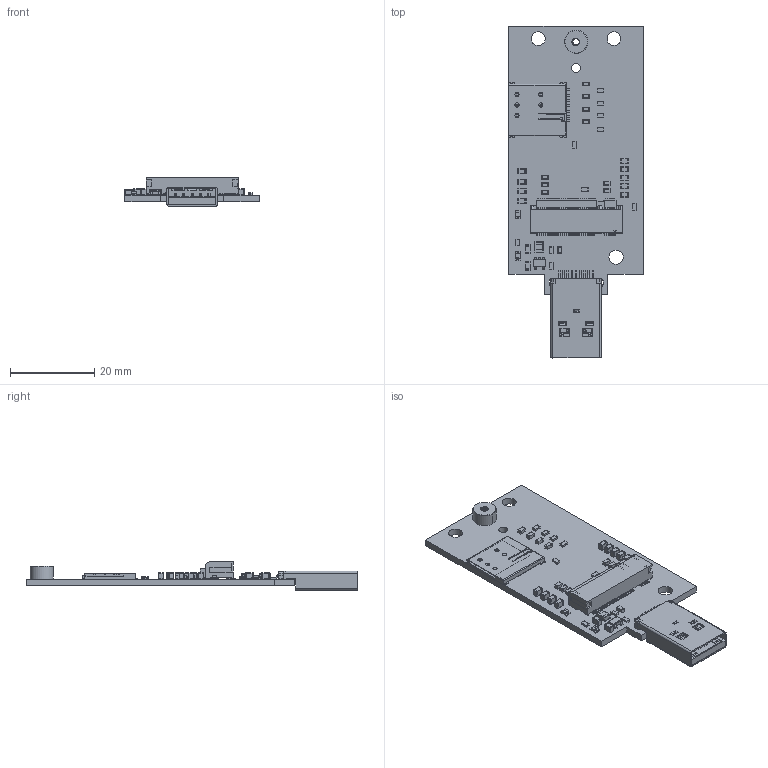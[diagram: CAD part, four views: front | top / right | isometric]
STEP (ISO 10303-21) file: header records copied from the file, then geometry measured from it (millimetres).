
FILE_DESCRIPTION(('Open CASCADE Model'),'2;1');
FILE_NAME('Open CASCADE Shape Model','2025-06-17T15:55:54',('Author'),( 'Open CASCADE'),'Open CASCADE STEP processor 6.8','Open CASCADE 6.8' ,'Unknown');
FILE_SCHEMA(('AUTOMOTIVE_DESIGN { 1 0 10303 214 1 1 1 1 }'));
Products named in the file (1): PCB
Bounding box: 32.06 x 78.97 x 6.74 mm (x, y, z)
Volume: 3944.5 mm3; surface area: 8777.3 mm2
Topology: 97 solids, 1092 shells, 4112 faces, 13335 edges, 10345 vertices
Faces by surface type: plane 2758, cylinder 1104, sphere 178, bspline 55, cone 12, torus 5
Full cylindrical faces by diameter (mm): 0.5 x2, 0.75 x2, 1 x2, 1.1 x1, 1.6 x1, 2.1 x1, 3.3 x2, 3.4 x1, 3.8 x1
Entity records: 156308 total; most frequent: CARTESIAN_POINT 31869, DIRECTION 23568, ORIENTED_EDGE 20820, EDGE_CURVE 13153, VERTEX_POINT 10343, LINE 10336, VECTOR 10336, AXIS2_PLACEMENT_3D 6616
